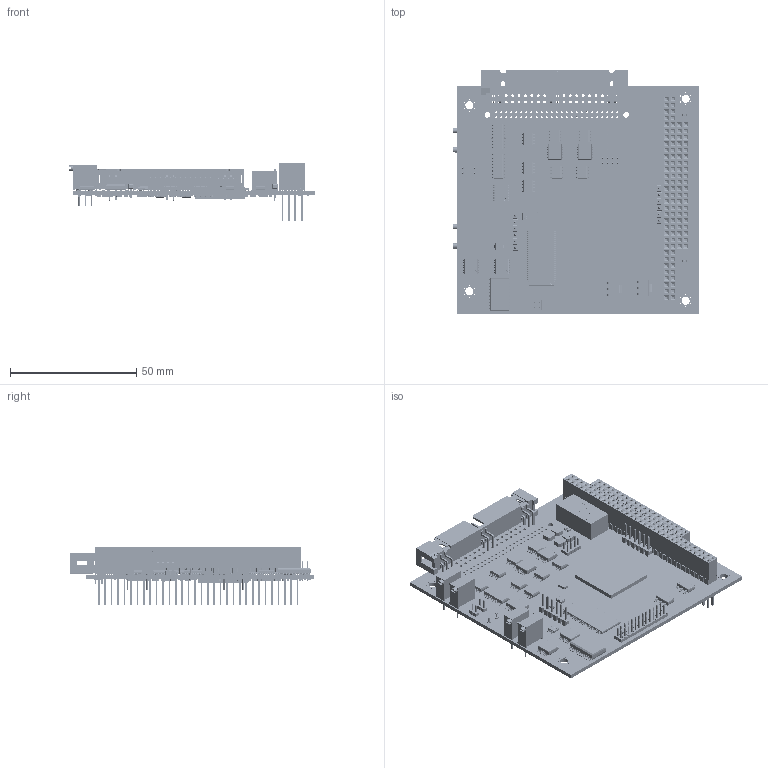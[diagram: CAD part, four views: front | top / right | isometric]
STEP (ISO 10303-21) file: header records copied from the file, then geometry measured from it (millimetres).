
FILE_DESCRIPTION(('Open CASCADE Model'),'2;1');
FILE_NAME('Open CASCADE Shape Model','2019-03-29T15:24:15',('Author'),( 'Open CASCADE'),'Open CASCADE STEP processor 6.8','Open CASCADE 6.8' ,'Unknown');
FILE_SCHEMA(('AUTOMOTIVE_DESIGN { 1 0 10303 214 1 1 1 1 }'));
Length unit declared in the file: millimetre
Products named in the file (273): PCB; Board; C35; 789487856; R57; 789509104; R56; 789518832; R55; R54; R53; 983718960; R52; R21; R91; TP2; HARWIN_H9001; TP1; U40; 1497327120; J1; m20-9990645_asm; M20-999-MOULD; M20-999-PIN; R51; R50; C42; 789516272; C41; C84; C101; L10; 1497322768; R86; 789516528; R85; J9; m22-2510246_asm; M22-25102_MOULD; M22-251_CONTACT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
Assembly tree (457 placements, depth 4):
  PCB
    Board
    C35
      789487856
    R57
      789509104
    R56
      789518832
    R55
      789518832
    R54
      789518832
    R53
      983718960
    R52
      983718960
    R21
      983718960
    R91
      789509104
    TP2
      HARWIN_H9001
    TP1
      HARWIN_H9001
    U40
      1497327120
    J1
      m20-9990645_asm
        M20-999-MOULD
        M20-999-PIN  x6
    R51
      789509104
    R50
      789509104
    C42
      789516272
    C41
      789487856
    C84
      789487856
    C101
      789516272
    L10
      1497322768
    R86
      789516528
    R85
      789509104
    J9
      m22-2510246_asm
        M22-25102_MOULD
        M22-251_CONTACT  x2
    R78
      1497314448
    R77
      1497314448
    R76
      3296X
    R75
      3296X
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Bounding box: 97.1 x 96.37 x 23.24 mm (x, y, z)
Volume: 28771.2 mm3; surface area: 46804.7 mm2
Topology: 1061 solids, 1065 shells, 19297 faces, 47433 edges, 29708 vertices
Faces by surface type: plane 14429, cylinder 3994, sphere 766, bspline 59, torus 28, extrusion 17, cone 4
Full cylindrical faces by diameter (mm): 0.406 x36, 0.51 x24, 0.63 x14, 0.8 x88, 0.85 x6, 0.91 x12, 0.94 x12, 1 x1, 1.016 x104, 1.11 x40, 1.202 x4, 1.29 x2, 2.2 x2, 3.18 x4
Entity records: 369614 total; most frequent: CARTESIAN_POINT 56980, ORIENTED_EDGE 52758, DIRECTION 50730, EDGE_CURVE 26379, VECTOR 22978, LINE 22961, VERTEX_POINT 16903, AXIS2_PLACEMENT_3D 13876
